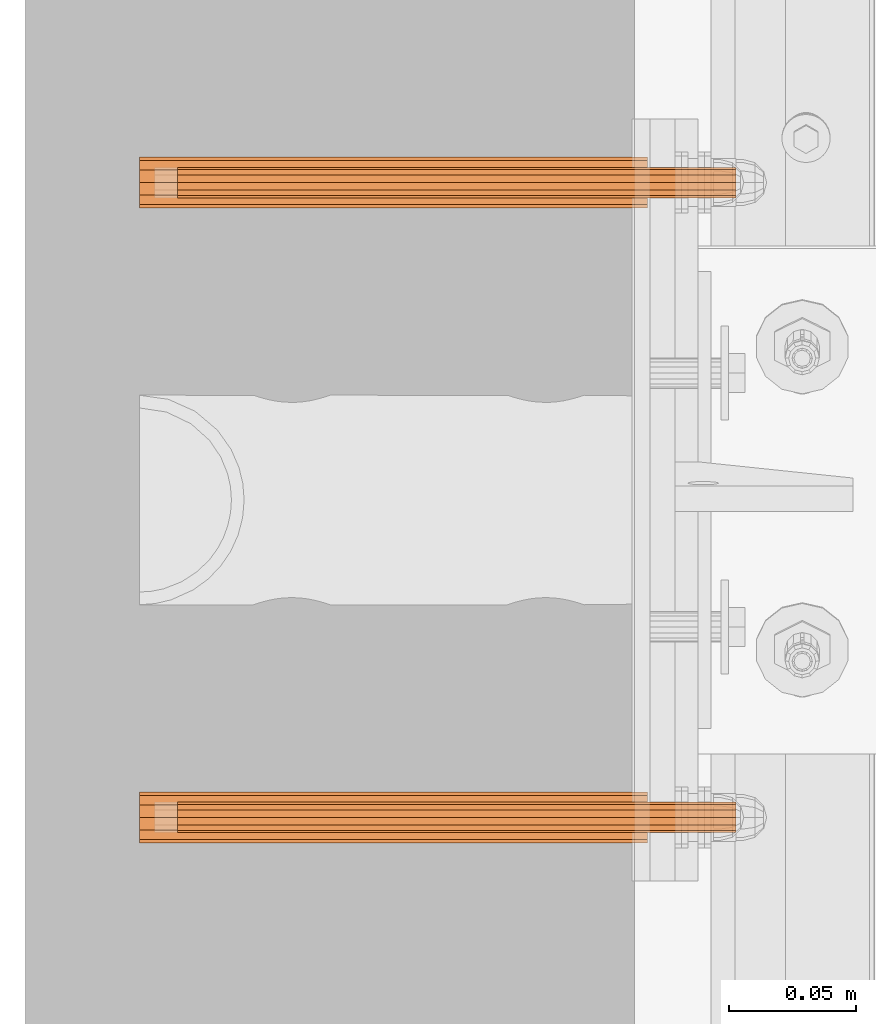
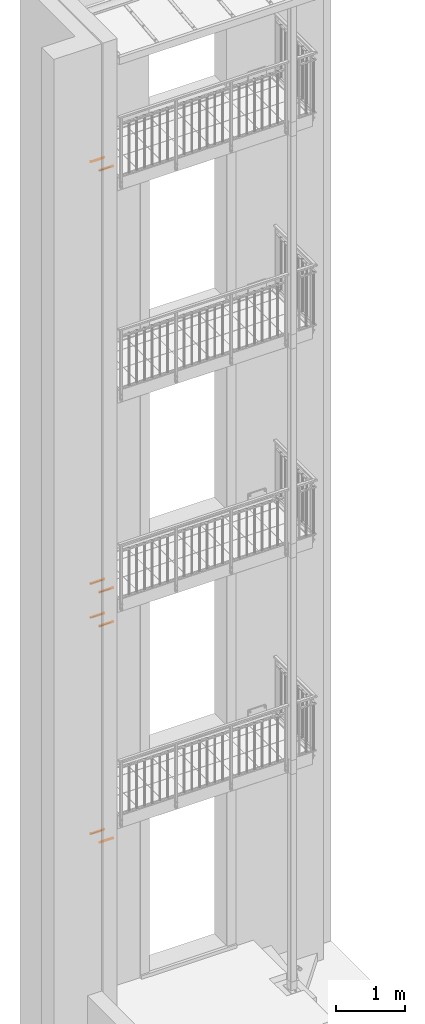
# One storey, part 80 of 162: 14 proxies.
"""IFC2X3 building model written with IfcOpenShell, lengths in millimetres."""

from ifc_helpers import new_model, entity, si_unit, converted_unit, origin_with_axes, place, context, project, spatial, faceted_brep, material, element, save


model = new_model("IFC2X3")

# Units and contexts
model_context = context("Model", 3, precision=1e-09, world=origin_with_axes())
ifc_project = project(units=[si_unit("LENGTHUNIT", "METRE", prefix="MILLI"), si_unit("AREAUNIT", "SQUARE_METRE"), si_unit("VOLUMEUNIT", "CUBIC_METRE"), converted_unit("PLANEANGLEUNIT", "DEGREE", entity("IfcPlaneAngleMeasure", 0.01745329), si_unit("PLANEANGLEUNIT", "RADIAN"), dimensions=[0, 0, 0, 0, 0, 0, 0])], contexts=[model_context])

# Site, building, storey
site_placement = place(None, origin_with_axes())
site = spatial("IfcSite", under=ifc_project, at=site_placement, Name="Hermannstra?e 1a, 60318 Frankfurt", CompositionType="ELEMENT")
building_placement = place(site_placement, origin_with_axes())
building = spatial("IfcBuilding", under=site, at=building_placement, Name="Struktur 1", CompositionType="ELEMENT")
storey_placement = place(building_placement, origin_with_axes())
storey = spatial("IfcBuildingStorey", under=building, at=storey_placement, Name="Default Storey", CompositionType="ELEMENT", Elevation=0.0)

# Proxies
ifc_material_1 = material(Name="A4")
proxy_1_placement = place(None, origin_with_axes())
element("IfcBuildingElementProxy", 1, at=proxy_1_placement, inside=storey, material=ifc_material_1, ObjectType="-", context=model_context, shape_type="Brep", body=[
    faceted_brep([(2343.310071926, 1930.610081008, 15355.999), (2563.310071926, 1930.610081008, 15355.999), (2563.310071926, 1927.610081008, 15356.802847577), (2343.310071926, 1927.610081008, 15356.802847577), (2343.310071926, 1933.610081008, 15356.802847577), (2563.310071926, 1933.610081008, 15356.802847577), (2563.310071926, 1935.806233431, 15364.999), (2563.310071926, 1933.610081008, 15367.195152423), (2563.310071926, 1930.610081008, 15367.999), (2563.310071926, 1927.610081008, 15367.195152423), (2563.310071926, 1925.413928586, 15364.999), (2563.310071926, 1924.610081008, 15361.999), (2563.310071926, 1925.413928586, 15358.999), (2563.310071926, 1935.806233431, 15358.999), (2563.310071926, 1936.610081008, 15361.999), (2343.310071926, 1925.413928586, 15364.999), (2343.310071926, 1927.610081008, 15367.195152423), (2343.310071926, 1930.610081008, 15367.999), (2343.310071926, 1933.610081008, 15367.195152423), (2343.310071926, 1935.806233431, 15364.999), (2343.310071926, 1936.610081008, 15361.999), (2343.310071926, 1935.806233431, 15358.999), (2343.310071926, 1925.413928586, 15358.999), (2343.310071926, 1924.610081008, 15361.999)], [[[0, 1, 2, 3]], [[1, 0, 4, 5]], [[6, 7, 8, 9, 10, 11, 12, 2, 1, 5, 13, 14]], [[15, 16, 17, 18, 19, 20, 21, 4, 0, 3, 22, 23]], [[3, 2, 12, 22]], [[5, 4, 21, 13]], [[11, 23, 22, 12]], [[10, 15, 23, 11]], [[13, 21, 20, 14]], [[16, 9, 8, 17]], [[15, 10, 9, 16]], [[17, 8, 7, 18]], [[14, 20, 19, 6]], [[18, 7, 6, 19]]]),
])
ifc_material_2 = material(Name="Kunststoff")
proxy_2_placement = place(None, origin_with_axes())
element("IfcBuildingElementProxy", 2, at=proxy_2_placement, inside=storey, material=ifc_material_2, ObjectType="-", context=model_context, shape_type="Brep", body=[
    faceted_brep([(2328.310071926, 1671.94982697, 15366.999), (2328.310071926, 1675.610081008, 15370.659254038), (2328.310071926, 1680.610081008, 15371.999), (2328.310071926, 1685.610081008, 15370.659254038), (2328.310071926, 1689.270335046, 15366.999), (2328.310071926, 1690.610081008, 15361.999), (2328.310071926, 1689.270335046, 15356.999), (2328.310071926, 1685.610081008, 15353.338745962), (2328.310071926, 1680.610081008, 15351.999), (2328.310071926, 1675.610081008, 15353.338745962), (2328.310071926, 1671.94982697, 15356.999), (2328.310071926, 1670.610081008, 15361.999), (2528.310071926, 1680.610081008, 15351.999), (2528.310071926, 1675.610081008, 15353.338745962), (2528.310071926, 1685.610081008, 15353.338745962), (2528.310071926, 1689.270335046, 15356.999), (2528.310071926, 1689.270335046, 15366.999), (2528.310071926, 1685.610081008, 15370.659254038), (2528.310071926, 1690.610081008, 15361.999), (2528.310071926, 1680.610081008, 15371.999), (2528.310071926, 1675.610081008, 15370.659254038), (2528.310071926, 1671.94982697, 15366.999), (2528.310071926, 1670.610081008, 15361.999), (2528.310071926, 1671.94982697, 15356.999), (2528.310071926, 1684.860081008, 15369.360215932), (2528.310071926, 1687.97129694, 15366.249), (2528.310071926, 1689.110081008, 15361.999), (2528.310071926, 1687.97129694, 15357.749), (2528.310071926, 1684.860081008, 15354.637784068), (2528.310071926, 1680.610081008, 15353.499), (2528.310071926, 1676.360081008, 15354.637784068), (2528.310071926, 1673.248865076, 15357.749), (2528.310071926, 1672.110081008, 15361.999), (2528.310071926, 1673.248865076, 15366.249), (2528.310071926, 1676.360081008, 15369.360215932), (2528.310071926, 1680.610081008, 15370.499), (2330.310071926, 1684.860081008, 15369.360215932), (2330.310071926, 1680.610081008, 15370.499), (2330.310071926, 1687.97129694, 15366.249), (2330.310071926, 1680.610081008, 15353.499), (2330.310071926, 1676.360081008, 15354.637784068), (2330.310071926, 1684.860081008, 15354.637784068), (2330.310071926, 1673.248865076, 15357.749), (2330.310071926, 1687.97129694, 15357.749), (2330.310071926, 1689.110081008, 15361.999), (2330.310071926, 1676.360081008, 15369.360215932), (2330.310071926, 1673.248865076, 15366.249), (2330.310071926, 1672.110081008, 15361.999)], [[[0, 1, 2, 3, 4, 5, 6, 7, 8, 9, 10, 11]], [[8, 12, 13, 9]], [[7, 14, 12, 8]], [[6, 15, 14, 7]], [[16, 4, 3, 17]], [[5, 18, 15, 6]], [[17, 3, 2, 19]], [[18, 16, 17, 19, 20, 21, 22, 23, 13, 12, 14, 15], [24, 25, 26, 27, 28, 29, 30, 31, 32, 33, 34, 35]], [[18, 5, 4, 16]], [[9, 13, 23, 10]], [[19, 2, 1, 20]], [[36, 24, 35, 37]], [[24, 36, 38, 25]], [[29, 39, 40, 30]], [[39, 29, 28, 41]], [[42, 40, 39, 41, 43, 44, 38, 36, 37, 45, 46, 47]], [[10, 23, 22, 11]], [[20, 1, 0, 21]], [[37, 35, 34, 45]], [[27, 43, 41, 28]], [[26, 44, 43, 27]], [[25, 38, 44, 26]], [[11, 22, 21, 0]], [[30, 40, 42, 31]], [[45, 34, 33, 46]], [[31, 42, 47, 32]], [[46, 33, 32, 47]]]),
])
proxy_3_placement = place(None, origin_with_axes())
element("IfcBuildingElementProxy", 3, at=proxy_3_placement, inside=storey, material=ifc_material_1, ObjectType="-", context=model_context, shape_type="Brep", body=[
    faceted_brep([(2343.310071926, 1680.610081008, 15355.999), (2563.310071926, 1680.610081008, 15355.999), (2563.310071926, 1677.610081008, 15356.802847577), (2343.310071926, 1677.610081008, 15356.802847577), (2343.310071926, 1683.610081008, 15356.802847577), (2563.310071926, 1683.610081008, 15356.802847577), (2563.310071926, 1685.806233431, 15364.999), (2563.310071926, 1683.610081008, 15367.195152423), (2563.310071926, 1680.610081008, 15367.999), (2563.310071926, 1677.610081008, 15367.195152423), (2563.310071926, 1675.413928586, 15364.999), (2563.310071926, 1674.610081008, 15361.999), (2563.310071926, 1675.413928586, 15358.999), (2563.310071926, 1685.806233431, 15358.999), (2563.310071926, 1686.610081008, 15361.999), (2343.310071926, 1675.413928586, 15364.999), (2343.310071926, 1677.610081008, 15367.195152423), (2343.310071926, 1680.610081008, 15367.999), (2343.310071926, 1683.610081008, 15367.195152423), (2343.310071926, 1685.806233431, 15364.999), (2343.310071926, 1686.610081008, 15361.999), (2343.310071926, 1685.806233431, 15358.999), (2343.310071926, 1675.413928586, 15358.999), (2343.310071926, 1674.610081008, 15361.999)], [[[0, 1, 2, 3]], [[1, 0, 4, 5]], [[6, 7, 8, 9, 10, 11, 12, 2, 1, 5, 13, 14]], [[15, 16, 17, 18, 19, 20, 21, 4, 0, 3, 22, 23]], [[3, 2, 12, 22]], [[5, 4, 21, 13]], [[11, 23, 22, 12]], [[10, 15, 23, 11]], [[13, 21, 20, 14]], [[16, 9, 8, 17]], [[15, 10, 9, 16]], [[17, 8, 7, 18]], [[14, 20, 19, 6]], [[18, 7, 6, 19]]]),
])
proxy_4_placement = place(None, origin_with_axes())
element("IfcBuildingElementProxy", 4, at=proxy_4_placement, inside=storey, material=ifc_material_1, ObjectType="-", context=model_context, shape_type="Brep", body=[
    faceted_brep([(2563.308657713, 1930.608666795, 7311.0), (2343.308657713, 1930.608666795, 7311.0), (2343.308657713, 1927.608666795, 7310.196152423), (2563.308657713, 1927.608666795, 7310.196152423), (2563.308657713, 1933.608666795, 7310.196152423), (2343.308657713, 1933.608666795, 7310.196152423), (2563.308657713, 1933.608666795, 7299.803847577), (2563.308657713, 1935.804819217, 7302.0), (2563.308657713, 1936.608666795, 7305.0), (2563.308657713, 1935.804819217, 7308.0), (2563.308657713, 1925.412514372, 7308.0), (2563.308657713, 1924.608666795, 7305.0), (2563.308657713, 1925.412514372, 7302.0), (2563.308657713, 1927.608666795, 7299.803847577), (2563.308657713, 1930.608666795, 7299.0), (2343.308657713, 1927.608666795, 7299.803847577), (2343.308657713, 1925.412514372, 7302.0), (2343.308657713, 1924.608666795, 7305.0), (2343.308657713, 1925.412514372, 7308.0), (2343.308657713, 1935.804819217, 7308.0), (2343.308657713, 1936.608666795, 7305.0), (2343.308657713, 1935.804819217, 7302.0), (2343.308657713, 1933.608666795, 7299.803847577), (2343.308657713, 1930.608666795, 7299.0)], [[[0, 1, 2, 3]], [[1, 0, 4, 5]], [[6, 7, 8, 9, 4, 0, 3, 10, 11, 12, 13, 14]], [[15, 16, 17, 18, 2, 1, 5, 19, 20, 21, 22, 23]], [[3, 2, 18, 10]], [[5, 4, 9, 19]], [[17, 11, 10, 18]], [[16, 12, 11, 17]], [[19, 9, 8, 20]], [[13, 15, 23, 14]], [[12, 16, 15, 13]], [[14, 23, 22, 6]], [[20, 8, 7, 21]], [[6, 22, 21, 7]]]),
])
proxy_5_placement = place(None, origin_with_axes())
element("IfcBuildingElementProxy", 5, at=proxy_5_placement, inside=storey, material=ifc_material_2, ObjectType="-", context=model_context, shape_type="Brep", body=[
    faceted_brep([(2328.308657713, 1925.608666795, 7296.339745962), (2328.308657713, 1921.948412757, 7300.0), (2328.308657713, 1920.608666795, 7305.0), (2328.308657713, 1921.948412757, 7310.0), (2328.308657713, 1925.608666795, 7313.660254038), (2328.308657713, 1930.608666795, 7315.0), (2328.308657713, 1935.608666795, 7313.660254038), (2328.308657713, 1939.268920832, 7310.0), (2328.308657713, 1940.608666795, 7305.0), (2328.308657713, 1939.268920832, 7300.0), (2328.308657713, 1935.608666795, 7296.339745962), (2328.308657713, 1930.608666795, 7295.0), (2528.308657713, 1930.608666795, 7315.0), (2528.308657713, 1925.608666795, 7313.660254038), (2528.308657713, 1935.608666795, 7313.660254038), (2528.308657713, 1939.268920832, 7310.0), (2528.308657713, 1939.268920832, 7300.0), (2528.308657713, 1935.608666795, 7296.339745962), (2528.308657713, 1940.608666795, 7305.0), (2528.308657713, 1930.608666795, 7295.0), (2528.308657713, 1921.948412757, 7310.0), (2528.308657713, 1920.608666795, 7305.0), (2528.308657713, 1921.948412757, 7300.0), (2528.308657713, 1925.608666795, 7296.339745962), (2528.308657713, 1934.858666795, 7297.638784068), (2330.308657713, 1934.858666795, 7297.638784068), (2330.308657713, 1930.608666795, 7296.5), (2528.308657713, 1930.608666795, 7296.5), (2528.308657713, 1937.969882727, 7300.75), (2330.308657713, 1937.969882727, 7300.75), (2330.308657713, 1930.608666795, 7313.5), (2528.308657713, 1930.608666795, 7313.5), (2528.308657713, 1926.358666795, 7312.361215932), (2330.308657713, 1926.358666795, 7312.361215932), (2330.308657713, 1934.858666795, 7312.361215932), (2528.308657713, 1934.858666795, 7312.361215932), (2330.308657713, 1923.247450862, 7309.25), (2330.308657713, 1922.108666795, 7305.0), (2330.308657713, 1923.247450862, 7300.75), (2330.308657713, 1926.358666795, 7297.638784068), (2330.308657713, 1939.108666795, 7305.0), (2330.308657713, 1937.969882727, 7309.25), (2528.308657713, 1926.358666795, 7297.638784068), (2528.308657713, 1937.969882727, 7309.25), (2528.308657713, 1939.108666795, 7305.0), (2528.308657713, 1923.247450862, 7309.25), (2528.308657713, 1923.247450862, 7300.75), (2528.308657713, 1922.108666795, 7305.0)], [[[0, 1, 2, 3, 4, 5, 6, 7, 8, 9, 10, 11]], [[12, 5, 4, 13]], [[14, 6, 5, 12]], [[15, 7, 6, 14]], [[9, 16, 17, 10]], [[18, 8, 7, 15]], [[10, 17, 19, 11]], [[16, 18, 15, 14, 12, 13, 20, 21, 22, 23, 19, 17]], [[8, 18, 16, 9]], [[13, 4, 3, 20]], [[11, 19, 23, 0]], [[24, 25, 26, 27]], [[25, 24, 28, 29]], [[30, 31, 32, 33]], [[31, 30, 34, 35]], [[33, 36, 37, 38, 39, 26, 25, 29, 40, 41, 34, 30]], [[20, 3, 2, 21]], [[0, 23, 22, 1]], [[27, 26, 39, 42]], [[41, 43, 35, 34]], [[40, 44, 43, 41]], [[29, 28, 44, 40]], [[21, 2, 1, 22]], [[33, 32, 45, 36]], [[42, 39, 38, 46]], [[36, 45, 47, 37]], [[46, 38, 37, 47]]]),
])
proxy_6_placement = place(None, origin_with_axes())
element("IfcBuildingElementProxy", 6, at=proxy_6_placement, inside=storey, material=ifc_material_1, ObjectType="-", context=model_context, shape_type="Brep", body=[
    faceted_brep([(2563.308657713, 1680.608666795, 7311.0), (2343.308657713, 1680.608666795, 7311.0), (2343.308657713, 1677.608666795, 7310.196152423), (2563.308657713, 1677.608666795, 7310.196152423), (2563.308657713, 1683.608666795, 7310.196152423), (2343.308657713, 1683.608666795, 7310.196152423), (2563.308657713, 1683.608666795, 7299.803847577), (2563.308657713, 1685.804819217, 7302.0), (2563.308657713, 1686.608666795, 7305.0), (2563.308657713, 1685.804819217, 7308.0), (2563.308657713, 1675.412514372, 7308.0), (2563.308657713, 1674.608666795, 7305.0), (2563.308657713, 1675.412514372, 7302.0), (2563.308657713, 1677.608666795, 7299.803847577), (2563.308657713, 1680.608666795, 7299.0), (2343.308657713, 1677.608666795, 7299.803847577), (2343.308657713, 1675.412514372, 7302.0), (2343.308657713, 1674.608666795, 7305.0), (2343.308657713, 1675.412514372, 7308.0), (2343.308657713, 1685.804819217, 7308.0), (2343.308657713, 1686.608666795, 7305.0), (2343.308657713, 1685.804819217, 7302.0), (2343.308657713, 1683.608666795, 7299.803847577), (2343.308657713, 1680.608666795, 7299.0)], [[[0, 1, 2, 3]], [[1, 0, 4, 5]], [[6, 7, 8, 9, 4, 0, 3, 10, 11, 12, 13, 14]], [[15, 16, 17, 18, 2, 1, 5, 19, 20, 21, 22, 23]], [[3, 2, 18, 10]], [[5, 4, 9, 19]], [[17, 11, 10, 18]], [[16, 12, 11, 17]], [[19, 9, 8, 20]], [[13, 15, 23, 14]], [[12, 16, 15, 13]], [[14, 23, 22, 6]], [[20, 8, 7, 21]], [[6, 22, 21, 7]]]),
])
proxy_7_placement = place(None, origin_with_axes())
element("IfcBuildingElementProxy", 7, at=proxy_7_placement, inside=storey, material=ifc_material_2, ObjectType="-", context=model_context, shape_type="Brep", body=[
    faceted_brep([(2328.308657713, 1675.608666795, 7296.339745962), (2328.308657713, 1671.948412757, 7300.0), (2328.308657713, 1670.608666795, 7305.0), (2328.308657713, 1671.948412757, 7310.0), (2328.308657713, 1675.608666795, 7313.660254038), (2328.308657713, 1680.608666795, 7315.0), (2328.308657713, 1685.608666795, 7313.660254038), (2328.308657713, 1689.268920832, 7310.0), (2328.308657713, 1690.608666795, 7305.0), (2328.308657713, 1689.268920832, 7300.0), (2328.308657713, 1685.608666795, 7296.339745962), (2328.308657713, 1680.608666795, 7295.0), (2528.308657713, 1680.608666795, 7315.0), (2528.308657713, 1675.608666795, 7313.660254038), (2528.308657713, 1685.608666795, 7313.660254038), (2528.308657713, 1689.268920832, 7310.0), (2528.308657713, 1689.268920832, 7300.0), (2528.308657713, 1685.608666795, 7296.339745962), (2528.308657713, 1690.608666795, 7305.0), (2528.308657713, 1680.608666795, 7295.0), (2528.308657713, 1671.948412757, 7310.0), (2528.308657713, 1670.608666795, 7305.0), (2528.308657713, 1671.948412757, 7300.0), (2528.308657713, 1675.608666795, 7296.339745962), (2528.308657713, 1684.858666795, 7297.638784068), (2330.308657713, 1684.858666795, 7297.638784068), (2330.308657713, 1680.608666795, 7296.5), (2528.308657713, 1680.608666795, 7296.5), (2528.308657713, 1687.969882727, 7300.75), (2330.308657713, 1687.969882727, 7300.75), (2330.308657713, 1680.608666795, 7313.5), (2528.308657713, 1680.608666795, 7313.5), (2528.308657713, 1676.358666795, 7312.361215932), (2330.308657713, 1676.358666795, 7312.361215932), (2330.308657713, 1684.858666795, 7312.361215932), (2528.308657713, 1684.858666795, 7312.361215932), (2330.308657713, 1673.247450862, 7309.25), (2330.308657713, 1672.108666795, 7305.0), (2330.308657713, 1673.247450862, 7300.75), (2330.308657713, 1676.358666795, 7297.638784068), (2330.308657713, 1689.108666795, 7305.0), (2330.308657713, 1687.969882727, 7309.25), (2528.308657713, 1676.358666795, 7297.638784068), (2528.308657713, 1687.969882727, 7309.25), (2528.308657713, 1689.108666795, 7305.0), (2528.308657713, 1673.247450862, 7309.25), (2528.308657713, 1673.247450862, 7300.75), (2528.308657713, 1672.108666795, 7305.0)], [[[0, 1, 2, 3, 4, 5, 6, 7, 8, 9, 10, 11]], [[12, 5, 4, 13]], [[14, 6, 5, 12]], [[15, 7, 6, 14]], [[9, 16, 17, 10]], [[18, 8, 7, 15]], [[10, 17, 19, 11]], [[16, 18, 15, 14, 12, 13, 20, 21, 22, 23, 19, 17]], [[8, 18, 16, 9]], [[13, 4, 3, 20]], [[11, 19, 23, 0]], [[24, 25, 26, 27]], [[25, 24, 28, 29]], [[30, 31, 32, 33]], [[31, 30, 34, 35]], [[33, 36, 37, 38, 39, 26, 25, 29, 40, 41, 34, 30]], [[20, 3, 2, 21]], [[0, 23, 22, 1]], [[27, 26, 39, 42]], [[41, 43, 35, 34]], [[40, 44, 43, 41]], [[29, 28, 44, 40]], [[21, 2, 1, 22]], [[33, 32, 45, 36]], [[42, 39, 38, 46]], [[36, 45, 47, 37]], [[46, 38, 37, 47]]]),
])
proxy_8_placement = place(None, origin_with_axes())
element("IfcBuildingElementProxy", 8, at=proxy_8_placement, inside=storey, material=ifc_material_2, ObjectType="-", context=model_context, shape_type="Brep", body=[
    faceted_brep([(2328.308657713, 1921.948412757, 7910.0), (2328.308657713, 1925.608666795, 7913.660254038), (2328.308657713, 1930.608666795, 7915.0), (2328.308657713, 1935.608666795, 7913.660254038), (2328.308657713, 1939.268920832, 7910.0), (2328.308657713, 1940.608666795, 7905.0), (2328.308657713, 1939.268920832, 7900.0), (2328.308657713, 1935.608666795, 7896.339745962), (2328.308657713, 1930.608666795, 7895.0), (2328.308657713, 1925.608666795, 7896.339745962), (2328.308657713, 1921.948412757, 7900.0), (2328.308657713, 1920.608666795, 7905.0), (2528.308657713, 1930.608666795, 7895.0), (2528.308657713, 1925.608666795, 7896.339745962), (2528.308657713, 1935.608666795, 7896.339745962), (2528.308657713, 1939.268920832, 7900.0), (2528.308657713, 1939.268920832, 7910.0), (2528.308657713, 1935.608666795, 7913.660254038), (2528.308657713, 1940.608666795, 7905.0), (2528.308657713, 1930.608666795, 7915.0), (2528.308657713, 1925.608666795, 7913.660254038), (2528.308657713, 1921.948412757, 7910.0), (2528.308657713, 1920.608666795, 7905.0), (2528.308657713, 1921.948412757, 7900.0), (2528.308657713, 1934.858666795, 7912.361215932), (2528.308657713, 1937.969882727, 7909.25), (2528.308657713, 1939.108666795, 7905.0), (2528.308657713, 1937.969882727, 7900.75), (2528.308657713, 1934.858666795, 7897.638784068), (2528.308657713, 1930.608666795, 7896.5), (2528.308657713, 1926.358666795, 7897.638784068), (2528.308657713, 1923.247450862, 7900.75), (2528.308657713, 1922.108666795, 7905.0), (2528.308657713, 1923.247450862, 7909.25), (2528.308657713, 1926.358666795, 7912.361215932), (2528.308657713, 1930.608666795, 7913.5), (2330.308657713, 1934.858666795, 7912.361215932), (2330.308657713, 1930.608666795, 7913.5), (2330.308657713, 1937.969882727, 7909.25), (2330.308657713, 1930.608666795, 7896.5), (2330.308657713, 1926.358666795, 7897.638784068), (2330.308657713, 1934.858666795, 7897.638784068), (2330.308657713, 1923.247450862, 7900.75), (2330.308657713, 1937.969882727, 7900.75), (2330.308657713, 1939.108666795, 7905.0), (2330.308657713, 1926.358666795, 7912.361215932), (2330.308657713, 1923.247450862, 7909.25), (2330.308657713, 1922.108666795, 7905.0)], [[[0, 1, 2, 3, 4, 5, 6, 7, 8, 9, 10, 11]], [[8, 12, 13, 9]], [[7, 14, 12, 8]], [[6, 15, 14, 7]], [[16, 4, 3, 17]], [[5, 18, 15, 6]], [[17, 3, 2, 19]], [[18, 16, 17, 19, 20, 21, 22, 23, 13, 12, 14, 15], [24, 25, 26, 27, 28, 29, 30, 31, 32, 33, 34, 35]], [[18, 5, 4, 16]], [[9, 13, 23, 10]], [[19, 2, 1, 20]], [[36, 24, 35, 37]], [[24, 36, 38, 25]], [[29, 39, 40, 30]], [[39, 29, 28, 41]], [[42, 40, 39, 41, 43, 44, 38, 36, 37, 45, 46, 47]], [[10, 23, 22, 11]], [[20, 1, 0, 21]], [[37, 35, 34, 45]], [[27, 43, 41, 28]], [[26, 44, 43, 27]], [[25, 38, 44, 26]], [[11, 22, 21, 0]], [[30, 40, 42, 31]], [[45, 34, 33, 46]], [[31, 42, 47, 32]], [[46, 33, 32, 47]]]),
])
proxy_9_placement = place(None, origin_with_axes())
element("IfcBuildingElementProxy", 9, at=proxy_9_placement, inside=storey, material=ifc_material_1, ObjectType="-", context=model_context, shape_type="Brep", body=[
    faceted_brep([(2343.308657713, 1930.608666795, 7899.0), (2563.308657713, 1930.608666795, 7899.0), (2563.308657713, 1927.608666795, 7899.803847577), (2343.308657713, 1927.608666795, 7899.803847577), (2343.308657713, 1933.608666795, 7899.803847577), (2563.308657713, 1933.608666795, 7899.803847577), (2563.308657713, 1935.804819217, 7908.0), (2563.308657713, 1933.608666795, 7910.196152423), (2563.308657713, 1930.608666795, 7911.0), (2563.308657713, 1927.608666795, 7910.196152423), (2563.308657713, 1925.412514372, 7908.0), (2563.308657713, 1924.608666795, 7905.0), (2563.308657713, 1925.412514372, 7902.0), (2563.308657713, 1935.804819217, 7902.0), (2563.308657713, 1936.608666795, 7905.0), (2343.308657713, 1925.412514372, 7908.0), (2343.308657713, 1927.608666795, 7910.196152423), (2343.308657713, 1930.608666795, 7911.0), (2343.308657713, 1933.608666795, 7910.196152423), (2343.308657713, 1935.804819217, 7908.0), (2343.308657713, 1936.608666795, 7905.0), (2343.308657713, 1935.804819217, 7902.0), (2343.308657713, 1925.412514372, 7902.0), (2343.308657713, 1924.608666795, 7905.0)], [[[0, 1, 2, 3]], [[1, 0, 4, 5]], [[6, 7, 8, 9, 10, 11, 12, 2, 1, 5, 13, 14]], [[15, 16, 17, 18, 19, 20, 21, 4, 0, 3, 22, 23]], [[3, 2, 12, 22]], [[5, 4, 21, 13]], [[11, 23, 22, 12]], [[10, 15, 23, 11]], [[13, 21, 20, 14]], [[16, 9, 8, 17]], [[15, 10, 9, 16]], [[17, 8, 7, 18]], [[14, 20, 19, 6]], [[18, 7, 6, 19]]]),
])
proxy_10_placement = place(None, origin_with_axes())
element("IfcBuildingElementProxy", 10, at=proxy_10_placement, inside=storey, material=ifc_material_2, ObjectType="-", context=model_context, shape_type="Brep", body=[
    faceted_brep([(2328.308657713, 1671.948412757, 7910.0), (2328.308657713, 1675.608666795, 7913.660254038), (2328.308657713, 1680.608666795, 7915.0), (2328.308657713, 1685.608666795, 7913.660254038), (2328.308657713, 1689.268920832, 7910.0), (2328.308657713, 1690.608666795, 7905.0), (2328.308657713, 1689.268920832, 7900.0), (2328.308657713, 1685.608666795, 7896.339745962), (2328.308657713, 1680.608666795, 7895.0), (2328.308657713, 1675.608666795, 7896.339745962), (2328.308657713, 1671.948412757, 7900.0), (2328.308657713, 1670.608666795, 7905.0), (2528.308657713, 1680.608666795, 7895.0), (2528.308657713, 1675.608666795, 7896.339745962), (2528.308657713, 1685.608666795, 7896.339745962), (2528.308657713, 1689.268920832, 7900.0), (2528.308657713, 1689.268920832, 7910.0), (2528.308657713, 1685.608666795, 7913.660254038), (2528.308657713, 1690.608666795, 7905.0), (2528.308657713, 1680.608666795, 7915.0), (2528.308657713, 1675.608666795, 7913.660254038), (2528.308657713, 1671.948412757, 7910.0), (2528.308657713, 1670.608666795, 7905.0), (2528.308657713, 1671.948412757, 7900.0), (2528.308657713, 1684.858666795, 7912.361215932), (2528.308657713, 1687.969882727, 7909.25), (2528.308657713, 1689.108666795, 7905.0), (2528.308657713, 1687.969882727, 7900.75), (2528.308657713, 1684.858666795, 7897.638784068), (2528.308657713, 1680.608666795, 7896.5), (2528.308657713, 1676.358666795, 7897.638784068), (2528.308657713, 1673.247450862, 7900.75), (2528.308657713, 1672.108666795, 7905.0), (2528.308657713, 1673.247450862, 7909.25), (2528.308657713, 1676.358666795, 7912.361215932), (2528.308657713, 1680.608666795, 7913.5), (2330.308657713, 1684.858666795, 7912.361215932), (2330.308657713, 1680.608666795, 7913.5), (2330.308657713, 1687.969882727, 7909.25), (2330.308657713, 1680.608666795, 7896.5), (2330.308657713, 1676.358666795, 7897.638784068), (2330.308657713, 1684.858666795, 7897.638784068), (2330.308657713, 1673.247450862, 7900.75), (2330.308657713, 1687.969882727, 7900.75), (2330.308657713, 1689.108666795, 7905.0), (2330.308657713, 1676.358666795, 7912.361215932), (2330.308657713, 1673.247450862, 7909.25), (2330.308657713, 1672.108666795, 7905.0)], [[[0, 1, 2, 3, 4, 5, 6, 7, 8, 9, 10, 11]], [[8, 12, 13, 9]], [[7, 14, 12, 8]], [[6, 15, 14, 7]], [[16, 4, 3, 17]], [[5, 18, 15, 6]], [[17, 3, 2, 19]], [[18, 16, 17, 19, 20, 21, 22, 23, 13, 12, 14, 15], [24, 25, 26, 27, 28, 29, 30, 31, 32, 33, 34, 35]], [[18, 5, 4, 16]], [[9, 13, 23, 10]], [[19, 2, 1, 20]], [[36, 24, 35, 37]], [[24, 36, 38, 25]], [[29, 39, 40, 30]], [[39, 29, 28, 41]], [[42, 40, 39, 41, 43, 44, 38, 36, 37, 45, 46, 47]], [[10, 23, 22, 11]], [[20, 1, 0, 21]], [[37, 35, 34, 45]], [[27, 43, 41, 28]], [[26, 44, 43, 27]], [[25, 38, 44, 26]], [[11, 22, 21, 0]], [[30, 40, 42, 31]], [[45, 34, 33, 46]], [[31, 42, 47, 32]], [[46, 33, 32, 47]]]),
])
proxy_11_placement = place(None, origin_with_axes())
element("IfcBuildingElementProxy", 11, at=proxy_11_placement, inside=storey, material=ifc_material_1, ObjectType="-", context=model_context, shape_type="Brep", body=[
    faceted_brep([(2343.308657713, 1680.608666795, 7899.0), (2563.308657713, 1680.608666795, 7899.0), (2563.308657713, 1677.608666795, 7899.803847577), (2343.308657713, 1677.608666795, 7899.803847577), (2343.308657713, 1683.608666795, 7899.803847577), (2563.308657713, 1683.608666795, 7899.803847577), (2563.308657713, 1685.804819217, 7908.0), (2563.308657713, 1683.608666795, 7910.196152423), (2563.308657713, 1680.608666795, 7911.0), (2563.308657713, 1677.608666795, 7910.196152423), (2563.308657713, 1675.412514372, 7908.0), (2563.308657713, 1674.608666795, 7905.0), (2563.308657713, 1675.412514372, 7902.0), (2563.308657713, 1685.804819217, 7902.0), (2563.308657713, 1686.608666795, 7905.0), (2343.308657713, 1675.412514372, 7908.0), (2343.308657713, 1677.608666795, 7910.196152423), (2343.308657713, 1680.608666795, 7911.0), (2343.308657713, 1683.608666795, 7910.196152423), (2343.308657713, 1685.804819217, 7908.0), (2343.308657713, 1686.608666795, 7905.0), (2343.308657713, 1685.804819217, 7902.0), (2343.308657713, 1675.412514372, 7902.0), (2343.308657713, 1674.608666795, 7905.0)], [[[0, 1, 2, 3]], [[1, 0, 4, 5]], [[6, 7, 8, 9, 10, 11, 12, 2, 1, 5, 13, 14]], [[15, 16, 17, 18, 19, 20, 21, 4, 0, 3, 22, 23]], [[3, 2, 12, 22]], [[5, 4, 21, 13]], [[11, 23, 22, 12]], [[10, 15, 23, 11]], [[13, 21, 20, 14]], [[16, 9, 8, 17]], [[15, 10, 9, 16]], [[17, 8, 7, 18]], [[14, 20, 19, 6]], [[18, 7, 6, 19]]]),
])
proxy_12_placement = place(None, origin_with_axes())
element("IfcBuildingElementProxy", 12, at=proxy_12_placement, inside=storey, material=ifc_material_1, ObjectType="-", context=model_context, shape_type="Brep", body=[
    faceted_brep([(2563.310071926, 1930.610081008, 3486.0), (2343.310071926, 1930.610081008, 3486.0), (2343.310071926, 1927.610081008, 3485.196152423), (2563.310071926, 1927.610081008, 3485.196152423), (2563.310071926, 1933.610081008, 3485.196152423), (2343.310071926, 1933.610081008, 3485.196152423), (2563.310071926, 1933.610081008, 3474.803847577), (2563.310071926, 1935.806233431, 3477.0), (2563.310071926, 1936.610081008, 3480.0), (2563.310071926, 1935.806233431, 3483.0), (2563.310071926, 1925.413928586, 3483.0), (2563.310071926, 1924.610081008, 3480.0), (2563.310071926, 1925.413928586, 3477.0), (2563.310071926, 1927.610081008, 3474.803847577), (2563.310071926, 1930.610081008, 3474.0), (2343.310071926, 1927.610081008, 3474.803847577), (2343.310071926, 1925.413928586, 3477.0), (2343.310071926, 1924.610081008, 3480.0), (2343.310071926, 1925.413928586, 3483.0), (2343.310071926, 1935.806233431, 3483.0), (2343.310071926, 1936.610081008, 3480.0), (2343.310071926, 1935.806233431, 3477.0), (2343.310071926, 1933.610081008, 3474.803847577), (2343.310071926, 1930.610081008, 3474.0)], [[[0, 1, 2, 3]], [[1, 0, 4, 5]], [[6, 7, 8, 9, 4, 0, 3, 10, 11, 12, 13, 14]], [[15, 16, 17, 18, 2, 1, 5, 19, 20, 21, 22, 23]], [[3, 2, 18, 10]], [[5, 4, 9, 19]], [[17, 11, 10, 18]], [[16, 12, 11, 17]], [[19, 9, 8, 20]], [[13, 15, 23, 14]], [[12, 16, 15, 13]], [[14, 23, 22, 6]], [[20, 8, 7, 21]], [[6, 22, 21, 7]]]),
])
proxy_13_placement = place(None, origin_with_axes())
element("IfcBuildingElementProxy", 13, at=proxy_13_placement, inside=storey, material=ifc_material_2, ObjectType="-", context=model_context, shape_type="Brep", body=[
    faceted_brep([(2328.310071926, 1925.610081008, 3471.339745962), (2328.310071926, 1921.94982697, 3475.0), (2328.310071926, 1920.610081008, 3480.0), (2328.310071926, 1921.94982697, 3485.0), (2328.310071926, 1925.610081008, 3488.660254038), (2328.310071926, 1930.610081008, 3490.0), (2328.310071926, 1935.610081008, 3488.660254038), (2328.310071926, 1939.270335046, 3485.0), (2328.310071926, 1940.610081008, 3480.0), (2328.310071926, 1939.270335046, 3475.0), (2328.310071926, 1935.610081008, 3471.339745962), (2328.310071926, 1930.610081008, 3470.0), (2528.310071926, 1930.610081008, 3490.0), (2528.310071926, 1925.610081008, 3488.660254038), (2528.310071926, 1935.610081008, 3488.660254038), (2528.310071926, 1939.270335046, 3485.0), (2528.310071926, 1939.270335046, 3475.0), (2528.310071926, 1935.610081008, 3471.339745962), (2528.310071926, 1940.610081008, 3480.0), (2528.310071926, 1930.610081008, 3470.0), (2528.310071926, 1921.94982697, 3485.0), (2528.310071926, 1920.610081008, 3480.0), (2528.310071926, 1921.94982697, 3475.0), (2528.310071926, 1925.610081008, 3471.339745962), (2528.310071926, 1934.860081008, 3472.638784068), (2330.310071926, 1934.860081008, 3472.638784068), (2330.310071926, 1930.610081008, 3471.5), (2528.310071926, 1930.610081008, 3471.5), (2528.310071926, 1937.97129694, 3475.75), (2330.310071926, 1937.97129694, 3475.75), (2330.310071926, 1930.610081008, 3488.5), (2528.310071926, 1930.610081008, 3488.5), (2528.310071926, 1926.360081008, 3487.361215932), (2330.310071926, 1926.360081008, 3487.361215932), (2330.310071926, 1934.860081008, 3487.361215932), (2528.310071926, 1934.860081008, 3487.361215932), (2330.310071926, 1923.248865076, 3484.25), (2330.310071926, 1922.110081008, 3480.0), (2330.310071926, 1923.248865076, 3475.75), (2330.310071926, 1926.360081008, 3472.638784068), (2330.310071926, 1939.110081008, 3480.0), (2330.310071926, 1937.97129694, 3484.25), (2528.310071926, 1926.360081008, 3472.638784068), (2528.310071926, 1937.97129694, 3484.25), (2528.310071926, 1939.110081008, 3480.0), (2528.310071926, 1923.248865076, 3484.25), (2528.310071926, 1923.248865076, 3475.75), (2528.310071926, 1922.110081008, 3480.0)], [[[0, 1, 2, 3, 4, 5, 6, 7, 8, 9, 10, 11]], [[12, 5, 4, 13]], [[14, 6, 5, 12]], [[15, 7, 6, 14]], [[9, 16, 17, 10]], [[18, 8, 7, 15]], [[10, 17, 19, 11]], [[16, 18, 15, 14, 12, 13, 20, 21, 22, 23, 19, 17]], [[8, 18, 16, 9]], [[13, 4, 3, 20]], [[11, 19, 23, 0]], [[24, 25, 26, 27]], [[25, 24, 28, 29]], [[30, 31, 32, 33]], [[31, 30, 34, 35]], [[33, 36, 37, 38, 39, 26, 25, 29, 40, 41, 34, 30]], [[20, 3, 2, 21]], [[0, 23, 22, 1]], [[27, 26, 39, 42]], [[41, 43, 35, 34]], [[40, 44, 43, 41]], [[29, 28, 44, 40]], [[21, 2, 1, 22]], [[33, 32, 45, 36]], [[42, 39, 38, 46]], [[36, 45, 47, 37]], [[46, 38, 37, 47]]]),
])
proxy_14_placement = place(None, origin_with_axes())
element("IfcBuildingElementProxy", 14, at=proxy_14_placement, inside=storey, material=ifc_material_1, ObjectType="-", context=model_context, shape_type="Brep", body=[
    faceted_brep([(2563.310071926, 1680.610081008, 3486.0), (2343.310071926, 1680.610081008, 3486.0), (2343.310071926, 1677.610081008, 3485.196152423), (2563.310071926, 1677.610081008, 3485.196152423), (2563.310071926, 1683.610081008, 3485.196152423), (2343.310071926, 1683.610081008, 3485.196152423), (2563.310071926, 1683.610081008, 3474.803847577), (2563.310071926, 1685.806233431, 3477.0), (2563.310071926, 1686.610081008, 3480.0), (2563.310071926, 1685.806233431, 3483.0), (2563.310071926, 1675.413928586, 3483.0), (2563.310071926, 1674.610081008, 3480.0), (2563.310071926, 1675.413928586, 3477.0), (2563.310071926, 1677.610081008, 3474.803847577), (2563.310071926, 1680.610081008, 3474.0), (2343.310071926, 1677.610081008, 3474.803847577), (2343.310071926, 1675.413928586, 3477.0), (2343.310071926, 1674.610081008, 3480.0), (2343.310071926, 1675.413928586, 3483.0), (2343.310071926, 1685.806233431, 3483.0), (2343.310071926, 1686.610081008, 3480.0), (2343.310071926, 1685.806233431, 3477.0), (2343.310071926, 1683.610081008, 3474.803847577), (2343.310071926, 1680.610081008, 3474.0)], [[[0, 1, 2, 3]], [[1, 0, 4, 5]], [[6, 7, 8, 9, 4, 0, 3, 10, 11, 12, 13, 14]], [[15, 16, 17, 18, 2, 1, 5, 19, 20, 21, 22, 23]], [[3, 2, 18, 10]], [[5, 4, 9, 19]], [[17, 11, 10, 18]], [[16, 12, 11, 17]], [[19, 9, 8, 20]], [[13, 15, 23, 14]], [[12, 16, 15, 13]], [[14, 23, 22, 6]], [[20, 8, 7, 21]], [[6, 22, 21, 7]]]),
])

save(model, "model.ifc")
